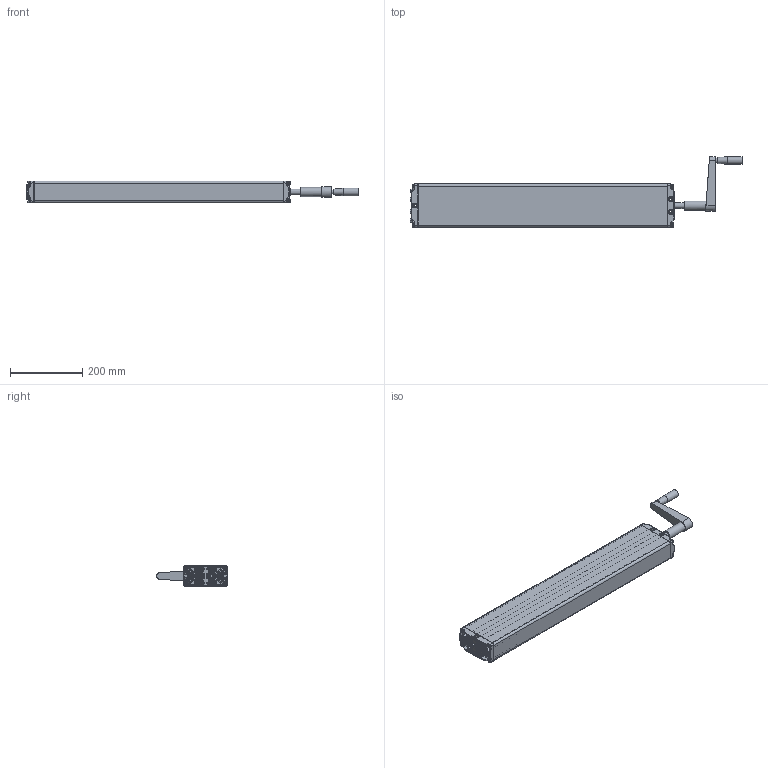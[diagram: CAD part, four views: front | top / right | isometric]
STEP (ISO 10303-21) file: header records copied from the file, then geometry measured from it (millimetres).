
FILE_DESCRIPTION(/* description */ ('Unknown'),/* implementation_level */ '2;1');
FILE_NAME(/* name */ '312.20045 Pumpe PB 6850 W mit Handkurbel',/* time_stamp */ '2016-09-05T17:44:36+02:00',/* author */ ('Unknown'),/* organization */ ('Unknown'),/* preprocessor_version */ 'ST-DEVELOPER v16.7',/* originating_system */ 'DEX',/* authorisation */ $);
FILE_SCHEMA (('AUTOMOTIVE_DESIGN {1 0 10303 214 3 1 1}'));
Products named in the file (21): 102.20045; 115.00035; 125.00045; 115.00008; 142.00021; 125.00021; 113.00005; 128.00001; 125.00052; 126.00013; 125.00053; 127.00014; Handgriff; 142.00013; 125.00145; 115.00140; 126.00006; 122.00040; 119.00045; 126.00005; 142.00057
Assembly tree (32 placements, depth 3):
  102.20045
    115.00035  x6
      125.00045
      115.00008
      142.00021
      125.00021
    113.00005
      128.00001
      125.00052
      126.00013
      125.00053
      127.00014
      Handgriff
    142.00013  x8
    125.00145
    115.00140
      126.00006
      122.00040
    119.00045
    126.00005
    142.00057
Bounding box: 919.72 x 195.5 x 60.3 mm (x, y, z)
Volume: 1037451.6 mm3; surface area: 665760.8 mm2
Topology: 38 solids, 38 shells, 2679 faces, 6323 edges, 3658 vertices
Faces by surface type: plane 755, bspline 707, cylinder 597, cone 384, torus 176, sphere 60
Full cylindrical faces by diameter (mm): 3.5 x6, 4 x2, 4.1 x6, 4.2 x7, 4.917 x2, 5 x8, 6.917 x12, 8 x14, 9.8 x8, 10 x4, 10.4 x1, 12.8 x1, 13 x1, 14 x1, 14.4 x6, 16 x2, 17 x1, 17.3 x6, 17.9 x12, 18 x1, 19 x1, 20.6 x1, 21 x1, 22 x1, 25.5 x1
Entity records: 101220 total; most frequent: CARTESIAN_POINT 55695, ORIENTED_EDGE 8526, DIRECTION 6939, EDGE_CURVE 4263, AXIS2_PLACEMENT_3D 2790, VERTEX_POINT 2625, FACE_BOUND 2108, EDGE_LOOP 2105
